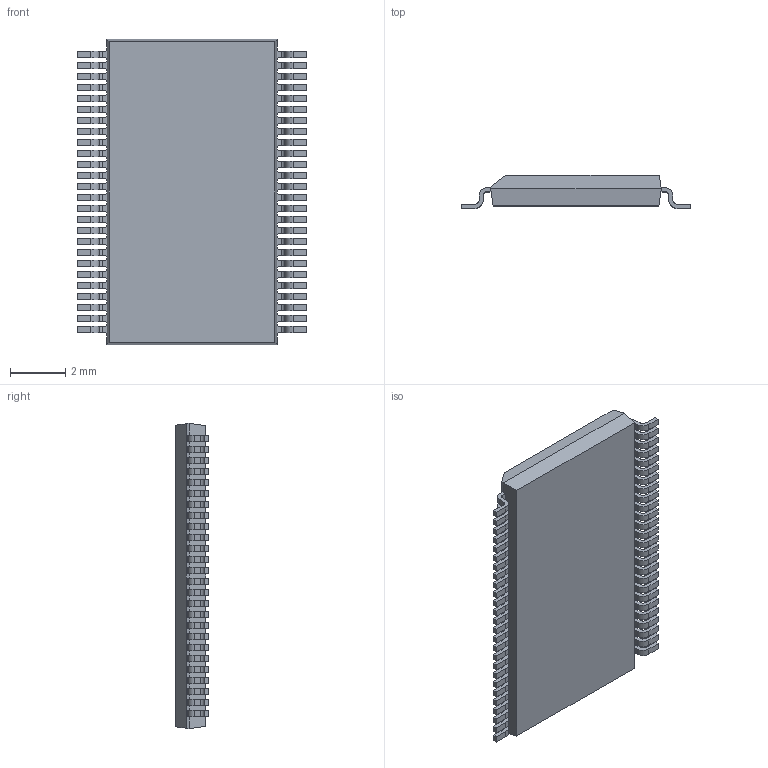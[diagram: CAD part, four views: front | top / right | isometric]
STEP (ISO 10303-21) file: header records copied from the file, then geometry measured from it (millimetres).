
FILE_DESCRIPTION (( 'STEP AP214' ), '1' );
FILE_NAME ('TSSOP40P810X120-52_MO-153.FC.STEP', '2014-10-29T08:25:47', ( 'Tester2' ), ( '' ), 'SwSTEP 2.0', 'SolidWorks 2012', '' );
FILE_SCHEMA (( 'AUTOMOTIVE_DESIGN' ));
Length unit declared in the file: millimetre
Products named in the file (1): TSSOP40P810X120-52_MO-153.FC
Bounding box: 8.3 x 1.2 x 11.1 mm (x, y, z)
Volume: 75.8 mm3; surface area: 226 mm2
Topology: 1 solids, 1 shells, 690 faces, 2057 edges, 1370 vertices
Faces by surface type: plane 480, cylinder 210
Entity records: 30592 total; most frequent: CARTESIAN_POINT 4118, ORIENTED_EDGE 4114, DIRECTION 3859, EDGE_CURVE 2057, VECTOR 1637, LINE 1637, VERTEX_POINT 1370, AXIS2_PLACEMENT_3D 1111
